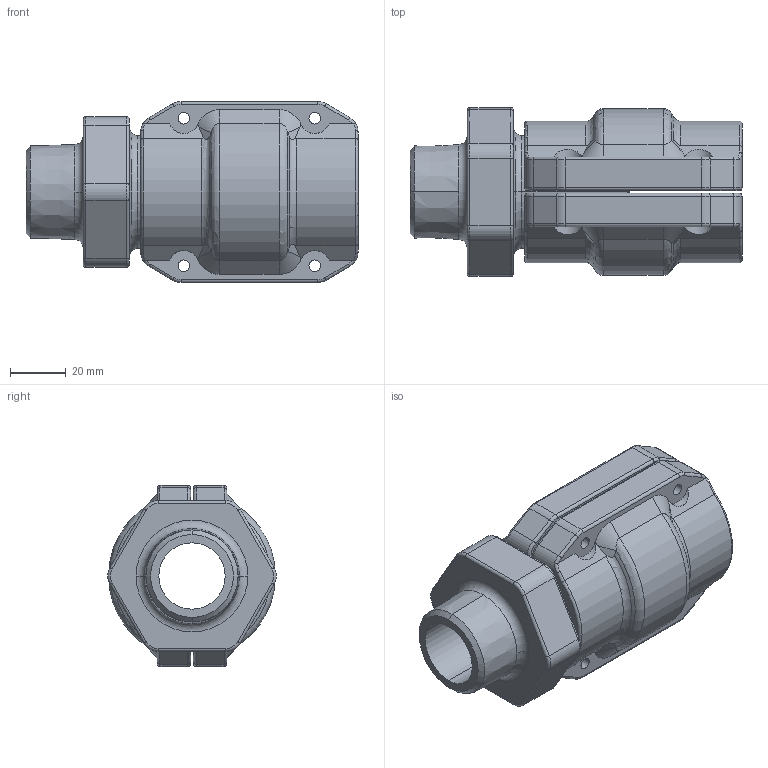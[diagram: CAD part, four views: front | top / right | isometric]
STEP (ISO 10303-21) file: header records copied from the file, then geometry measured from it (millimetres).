
FILE_DESCRIPTION((''),'2;1');
FILE_NAME('AU15421799_ASM_1_ASM','2017-05-16T',('Administrator'),(''),'PRO/ENGINEER BY PARAMETRIC TECHNOLOGY CORPORATION, 2009360','PRO/ENGINEER BY PARAMETRIC TECHNOLOGY CORPORATION, 2009360','');
FILE_SCHEMA(('AUTOMOTIVE_DESIGN_CC2 { 1 2 10303 214 -1 1 5 2 }'));
Length unit declared in the file: millimetre
Products named in the file (6): AU15421700_1_1; 201540020001_1_1; 201540020000_1_1; 2015400200_ASM_1_ASM_1_ASM; AU15421799_ASM_5_ASM_1_ASM; AU15421799_ASM_1_ASM
Assembly tree (5 placements, depth 4):
  AU15421799_ASM_1_ASM
    AU15421799_ASM_5_ASM_1_ASM
      AU15421700_1_1
      2015400200_ASM_1_ASM_1_ASM
        201540020001_1_1
        201540020000_1_1
Bounding box: 119.19 x 60.6 x 65 mm (x, y, z)
Volume: 152873.1 mm3; surface area: 52282.6 mm2
Topology: 3 solids, 3 shells, 281 faces, 716 edges, 436 vertices
Faces by surface type: cylinder 116, torus 78, plane 47, bspline 24, cone 8, sphere 8
Entity records: 12145 total; most frequent: CARTESIAN_POINT 3096, DIRECTION 1498, ORIENTED_EDGE 1416, PRESENTATION_STYLE_ASSIGNMENT 711, STYLED_ITEM 711, CURVE_STYLE 708, EDGE_CURVE 708, AXIS2_PLACEMENT_3D 638
